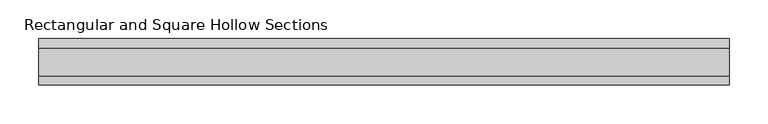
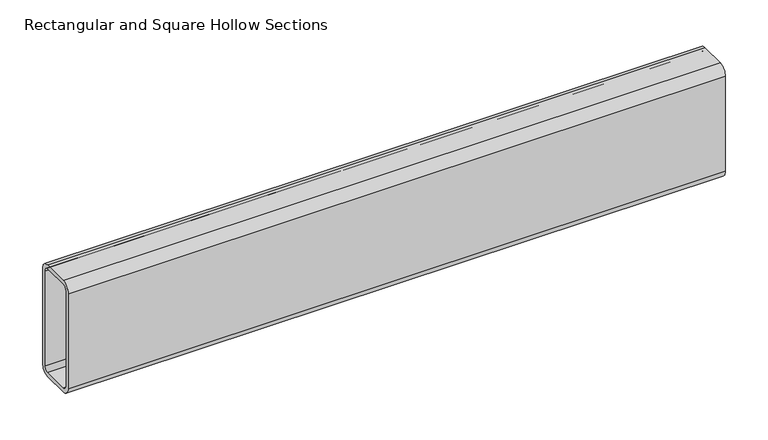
"""IFC4 building model written with IfcOpenShell, lengths in millimetres: beam geometry, Rectangular and Square Hollow Sections : TREC160x60x6."""

from ifc_helpers import new_model, si_unit, point, frame, frame_2d, origin, place, context, project, spatial, polyline, circle_curve, trimmed, segment, composite_curve, outline, extrude, source, transform, mapped, element, save


def rectangular_and_square_hollow_sections_a107d3ab(model_context):
    return source(origin(), model_context, "Body", "SweptSolid", [
        extrude(outline(composite_curve([segment(polyline([(30.0, 68.0), (30.0, -68.0)]), True, "CONTINUOUS"), segment(trimmed(circle_curve(frame_2d((18.0, -68.0)), 12.0), [point((30.0, -68.0))], [point((18.0, -80.0))], False, "CARTESIAN"), True, "CONTINUOUS"), segment(polyline([(18.0, -80.0), (-18.0, -80.0)]), True, "CONTINUOUS"), segment(trimmed(circle_curve(frame_2d((-18.0, -68.0)), 12.0), [point((-18.0, -80.0))], [point((-30.0, -68.0))], False, "CARTESIAN"), True, "CONTINUOUS"), segment(polyline([(-30.0, -68.0), (-30.0, 68.0)]), True, "CONTINUOUS"), segment(trimmed(circle_curve(frame_2d((-18.0, 68.0)), 12.0), [point((-30.0, 68.0))], [point((-18.0, 80.0))], False, "CARTESIAN"), True, "CONTINUOUS"), segment(polyline([(-18.0, 80.0), (18.0, 80.0)]), True, "CONTINUOUS"), segment(trimmed(circle_curve(frame_2d((18.0, 68.0)), 12.0), [point((18.0, 80.0))], [point((30.0, 68.0))], False, "CARTESIAN"), True, "CONTINUOUS")], self_intersect=False), holes=[composite_curve([segment(trimmed(circle_curve(frame_2d((-18.0, 68.0)), 6.0), [point((-18.0, 74.0))], [point((-24.0, 68.0))], True, "CARTESIAN"), True, "CONTINUOUS"), segment(polyline([(-24.0, 68.0), (-24.0, -68.0)]), True, "CONTINUOUS"), segment(trimmed(circle_curve(frame_2d((-18.0, -68.0)), 6.0), [point((-24.0, -68.0))], [point((-18.0, -74.0))], True, "CARTESIAN"), True, "CONTINUOUS"), segment(polyline([(-18.0, -74.0), (18.0, -74.0)]), True, "CONTINUOUS"), segment(trimmed(circle_curve(frame_2d((18.0, -68.0)), 6.0), [point((18.0, -74.0))], [point((24.0, -68.0))], True, "CARTESIAN"), True, "CONTINUOUS"), segment(polyline([(24.0, -68.0), (24.0, 68.0)]), True, "CONTINUOUS"), segment(trimmed(circle_curve(frame_2d((18.0, 68.0)), 6.0), [point((24.0, 68.0))], [point((18.0, 74.0))], True, "CARTESIAN"), True, "CONTINUOUS"), segment(polyline([(18.0, 74.0), (-18.0, 74.0)]), True, "CONTINUOUS")], self_intersect=False)]), frame((-461.5, 0.0, 0.0), z_axis=(1.0, 0.0, 0.0), x_axis=(0.0, 1.0, 0.0)), (0.0, 0.0, 1.0), 890.0),
    ])


if __name__ == "__main__":
    model = new_model("IFC4")
    model_context = context("Model", 3, world=origin())
    ifc_project = project(units=[si_unit("LENGTHUNIT", "METRE", prefix="MILLI")], contexts=[model_context])
    site = spatial("IfcSite", under=ifc_project)
    building = spatial("IfcBuilding", under=site)
    placement = place(None, origin())
    rectangular_and_square_hollow_sections_shape = rectangular_and_square_hollow_sections_a107d3ab(model_context)
    element("IfcBeam", 1, ObjectType="Rectangular and Square Hollow Sections : TREC160x60x6", at=placement, inside=building, context=model_context, shape_type="MappedRepresentation", body=[
        mapped(rectangular_and_square_hollow_sections_shape, transform((0.0, 0.0, 0.0), x_axis=(1.0, 0.0, 0.0), y_axis=(0.0, 1.0, 0.0), z_axis=(0.0, 0.0, 1.0))),
    ])
    save(model, "model.ifc")
